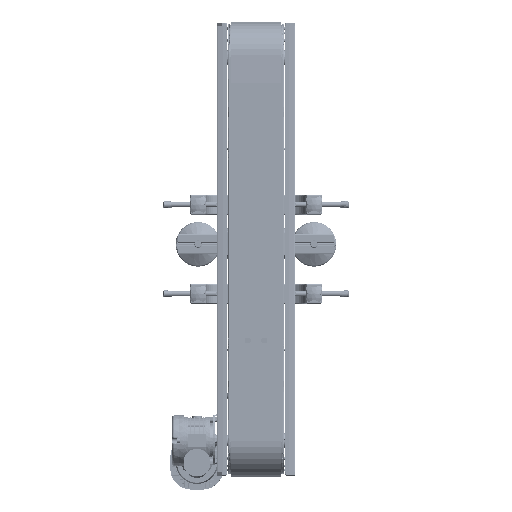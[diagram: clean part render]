
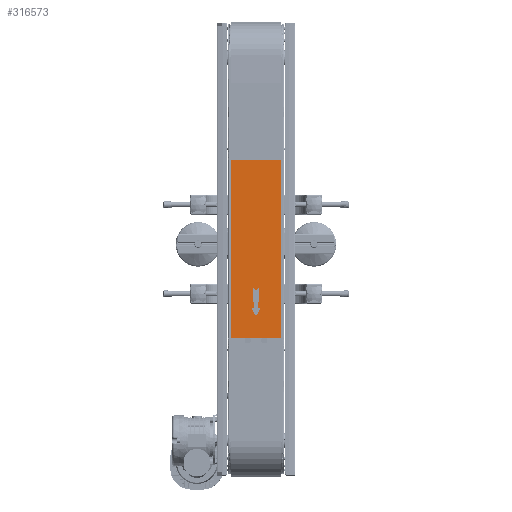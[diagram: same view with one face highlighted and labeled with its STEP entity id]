
A CAD part, top view. The second image highlights one B-rep face of the part: STEP entity #316573.
In plain terms, the highlighted planar face has unit normal (0, 0, 1) as drawn and (0, 1, 0) by its records, which use the part's own axes.
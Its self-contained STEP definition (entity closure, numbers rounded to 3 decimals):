
#3607 = VECTOR ( 'NONE', #64407, 1000. ) ;
#16131 = CARTESIAN_POINT ( 'NONE',  ( 57.15, 4.8, 400. ) ) ;
#21279 = DIRECTION ( 'NONE',  ( 0.778, 0., 0.628 ) ) ;
#24954 = ORIENTED_EDGE ( 'NONE', *, *, #296528, .F. ) ;
#36458 = EDGE_CURVE ( 'NONE', #45987, #74894, #195509, .T. ) ;
#39230 = FACE_OUTER_BOUND ( 'NONE', #86214, .T. ) ;
#44001 = LINE ( 'NONE', #234663, #292629 ) ;
#45987 = VERTEX_POINT ( 'NONE', #455882 ) ;
#48252 = DIRECTION ( 'NONE',  ( -0.065, 0., 0.998 ) ) ;
#52358 = LINE ( 'NONE', #16131, #431951 ) ;
#64407 = DIRECTION ( 'NONE',  ( 1., 0., 0. ) ) ;
#69162 = CARTESIAN_POINT ( 'NONE',  ( 7.785, 4.8, 114.776 ) ) ;
#71273 = CARTESIAN_POINT ( 'NONE',  ( 4.785, 4.8, 69.036 ) ) ;
#74894 = VERTEX_POINT ( 'NONE', #202304 ) ;
#86214 = EDGE_LOOP ( 'NONE', ( #235195, #403415, #24954, #464469 ) ) ;
#86665 = EDGE_CURVE ( 'NONE', #178747, #438817, #121429, .T. ) ;
#86797 = ORIENTED_EDGE ( 'NONE', *, *, #399094, .F. ) ;
#87568 = CARTESIAN_POINT ( 'NONE',  ( 0., 4.8, 50. ) ) ;
#93566 = CARTESIAN_POINT ( 'NONE',  ( 0., 4.8, 108.492 ) ) ;
#95604 = CARTESIAN_POINT ( 'NONE',  ( 7.785, 4.8, 114.776 ) ) ;
#96374 = EDGE_CURVE ( 'NONE', #174303, #318654, #106658, .T. ) ;
#101339 = VERTEX_POINT ( 'NONE', #69162 ) ;
#102332 = EDGE_CURVE ( 'NONE', #459170, #74894, #188471, .T. ) ;
#103537 = VECTOR ( 'NONE', #119045, 1000. ) ;
#103686 = VECTOR ( 'NONE', #131038, 1000. ) ;
#106658 = LINE ( 'NONE', #140479, #239237 ) ;
#113755 = CARTESIAN_POINT ( 'NONE',  ( 57.15, 4.8, 0. ) ) ;
#118913 = DIRECTION ( 'NONE',  ( 0., 0., -1. ) ) ;
#119045 = DIRECTION ( 'NONE',  ( -0.508, 0., -0.861 ) ) ;
#121429 = LINE ( 'NONE', #87568, #103537 ) ;
#126012 = CARTESIAN_POINT ( 'NONE',  ( 0., 4.8, 50. ) ) ;
#127209 = VECTOR ( 'NONE', #48252, 1000. ) ;
#130601 = CARTESIAN_POINT ( 'NONE',  ( -57.15, 4.8, 0. ) ) ;
#131038 = DIRECTION ( 'NONE',  ( 1., 0., 0. ) ) ;
#133372 = LINE ( 'NONE', #171903, #103686 ) ;
#140479 = CARTESIAN_POINT ( 'NONE',  ( -7.785, 4.8, 114.776 ) ) ;
#142810 = EDGE_CURVE ( 'NONE', #459481, #414962, #180545, .T. ) ;
#145573 = DIRECTION ( 'NONE',  ( 0., 1., 0. ) ) ;
#154231 = EDGE_CURVE ( 'NONE', #101339, #355016, #283747, .T. ) ;
#154578 = DIRECTION ( 'NONE',  ( 0., 0., -1. ) ) ;
#164882 = EDGE_LOOP ( 'NONE', ( #222660, #206900, #176546, #166492, #452869, #271748, #401243, #86797 ) ) ;
#166492 = ORIENTED_EDGE ( 'NONE', *, *, #423510, .F. ) ;
#171903 = CARTESIAN_POINT ( 'NONE',  ( 11.228, 4.8, 69.036 ) ) ;
#174303 = VERTEX_POINT ( 'NONE', #420667 ) ;
#176546 = ORIENTED_EDGE ( 'NONE', *, *, #142810, .F. ) ;
#178747 = VERTEX_POINT ( 'NONE', #316893 ) ;
#180545 = LINE ( 'NONE', #284523, #388083 ) ;
#188471 = LINE ( 'NONE', #113755, #3607 ) ;
#189828 = VECTOR ( 'NONE', #154578, 1000. ) ;
#195509 = LINE ( 'NONE', #254338, #189828 ) ;
#202304 = CARTESIAN_POINT ( 'NONE',  ( 57.15, 4.8, 0. ) ) ;
#206900 = ORIENTED_EDGE ( 'NONE', *, *, #475417, .F. ) ;
#217607 = DIRECTION ( 'NONE',  ( 0.778, 0., -0.628 ) ) ;
#222660 = ORIENTED_EDGE ( 'NONE', *, *, #96374, .F. ) ;
#234663 = CARTESIAN_POINT ( 'NONE',  ( -57.15, 4.8, 400. ) ) ;
#235195 = ORIENTED_EDGE ( 'NONE', *, *, #36458, .T. ) ;
#239237 = VECTOR ( 'NONE', #217607, 1000. ) ;
#252491 = EDGE_CURVE ( 'NONE', #355016, #178747, #133372, .T. ) ;
#254338 = CARTESIAN_POINT ( 'NONE',  ( 57.15, 4.8, 400. ) ) ;
#258283 = LINE ( 'NONE', #434660, #364925 ) ;
#260682 = DIRECTION ( 'NONE',  ( -0.508, 0., 0.861 ) ) ;
#271748 = ORIENTED_EDGE ( 'NONE', *, *, #252491, .F. ) ;
#279049 = DIRECTION ( 'NONE',  ( -0.065, 0., -0.998 ) ) ;
#283747 = LINE ( 'NONE', #95604, #454185 ) ;
#284523 = CARTESIAN_POINT ( 'NONE',  ( -11.228, 4.8, 69.036 ) ) ;
#292629 = VECTOR ( 'NONE', #118913, 1000. ) ;
#296528 = EDGE_CURVE ( 'NONE', #426897, #459170, #44001, .T. ) ;
#305268 = CARTESIAN_POINT ( 'NONE',  ( -4.785, 4.8, 69.036 ) ) ;
#311078 = CARTESIAN_POINT ( 'NONE',  ( 7.785, 4.8, 114.776 ) ) ;
#316573 = ADVANCED_FACE ( 'NONE', ( #367643, #39230 ), #437707, .T. ) ;
#316893 = CARTESIAN_POINT ( 'NONE',  ( 11.228, 4.8, 69.036 ) ) ;
#318654 = VERTEX_POINT ( 'NONE', #93566 ) ;
#331450 = DIRECTION ( 'NONE',  ( 0., 0., 1. ) ) ;
#332621 = DIRECTION ( 'NONE',  ( 1., 0., 0. ) ) ;
#333812 = CARTESIAN_POINT ( 'NONE',  ( 57.15, 4.8, 400. ) ) ;
#335675 = CARTESIAN_POINT ( 'NONE',  ( -7.785, 4.8, 114.776 ) ) ;
#349705 = LINE ( 'NONE', #311078, #376068 ) ;
#355016 = VERTEX_POINT ( 'NONE', #71273 ) ;
#364925 = VECTOR ( 'NONE', #260682, 1000. ) ;
#367643 = FACE_BOUND ( 'NONE', #164882, .T. ) ;
#376068 = VECTOR ( 'NONE', #21279, 1000. ) ;
#380549 = CARTESIAN_POINT ( 'NONE',  ( -11.228, 4.8, 69.036 ) ) ;
#388083 = VECTOR ( 'NONE', #332621, 1000. ) ;
#399094 = EDGE_CURVE ( 'NONE', #318654, #101339, #349705, .T. ) ;
#401243 = ORIENTED_EDGE ( 'NONE', *, *, #154231, .F. ) ;
#403415 = ORIENTED_EDGE ( 'NONE', *, *, #102332, .F. ) ;
#414962 = VERTEX_POINT ( 'NONE', #305268 ) ;
#416972 = DIRECTION ( 'NONE',  ( 1., 0., 0. ) ) ;
#417945 = EDGE_CURVE ( 'NONE', #426897, #45987, #52358, .T. ) ;
#420667 = CARTESIAN_POINT ( 'NONE',  ( -7.785, 4.8, 114.776 ) ) ;
#423510 = EDGE_CURVE ( 'NONE', #438817, #459481, #258283, .T. ) ;
#423958 = CARTESIAN_POINT ( 'NONE',  ( -57.15, 4.8, 400. ) ) ;
#426897 = VERTEX_POINT ( 'NONE', #423958 ) ;
#431951 = VECTOR ( 'NONE', #416972, 1000. ) ;
#434660 = CARTESIAN_POINT ( 'NONE',  ( 0., 4.8, 50. ) ) ;
#437707 = PLANE ( 'NONE',  #445947 ) ;
#438817 = VERTEX_POINT ( 'NONE', #126012 ) ;
#445947 = AXIS2_PLACEMENT_3D ( 'NONE', #333812, #145573, #331450 ) ;
#449108 = LINE ( 'NONE', #335675, #127209 ) ;
#452869 = ORIENTED_EDGE ( 'NONE', *, *, #86665, .F. ) ;
#454185 = VECTOR ( 'NONE', #279049, 1000. ) ;
#455882 = CARTESIAN_POINT ( 'NONE',  ( 57.15, 4.8, 400. ) ) ;
#459170 = VERTEX_POINT ( 'NONE', #130601 ) ;
#459481 = VERTEX_POINT ( 'NONE', #380549 ) ;
#464469 = ORIENTED_EDGE ( 'NONE', *, *, #417945, .T. ) ;
#475417 = EDGE_CURVE ( 'NONE', #414962, #174303, #449108, .T. ) ;
